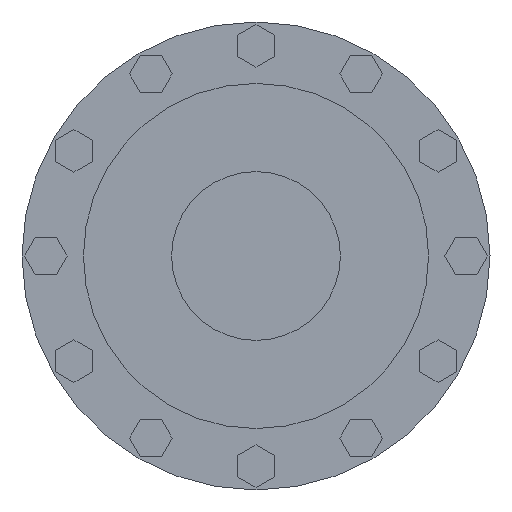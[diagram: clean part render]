
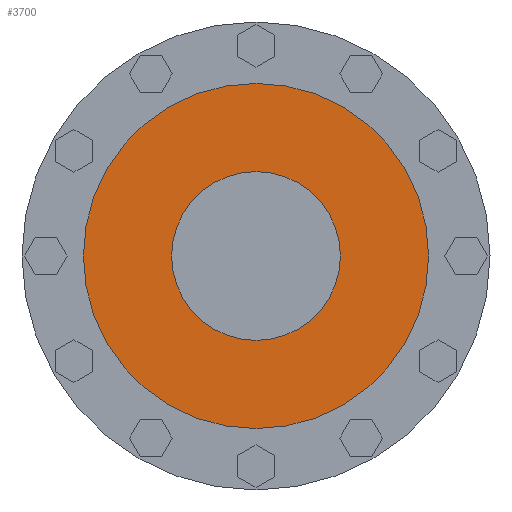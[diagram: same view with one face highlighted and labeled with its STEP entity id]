
A CAD part, left-side view. The second image highlights one B-rep face of the part: STEP entity #3700.
In plain terms, the highlighted planar face has unit normal (-1, 0, 0).
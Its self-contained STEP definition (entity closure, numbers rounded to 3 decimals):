
#6=CARTESIAN_POINT('',(-430.,0.,0.));
#7=DIRECTION('',(1.,0.,0.));
#8=DIRECTION('',(0.,1.,0.));
#9=AXIS2_PLACEMENT_3D('',#6,#7,#8);
#773=CARTESIAN_POINT('',(-430.,0.,0.));
#774=DIRECTION('',(-1.,0.,0.));
#775=DIRECTION('',(0.,1.,0.));
#776=AXIS2_PLACEMENT_3D('',#773,#774,#775);
#778=CARTESIAN_POINT('',(-430.,0.,0.));
#779=DIRECTION('',(1.,0.,0.));
#780=DIRECTION('',(0.,1.,0.));
#781=AXIS2_PLACEMENT_3D('',#778,#779,#780);
#792=CARTESIAN_POINT('',(-430.,0.,0.));
#793=DIRECTION('',(-1.,0.,0.));
#794=DIRECTION('',(0.,1.,0.));
#795=AXIS2_PLACEMENT_3D('',#792,#793,#794);
#2294=CARTESIAN_POINT('',(-430.,112.5,0.));
#2296=VERTEX_POINT('',#2294);
#2302=CARTESIAN_POINT('',(-430.,-112.5,0.));
#2304=VERTEX_POINT('',#2302);
#2325=CARTESIAN_POINT('',(-430.,55.,0.));
#2326=VERTEX_POINT('',#2325);
#2327=CARTESIAN_POINT('',(-430.,-55.,0.));
#2328=VERTEX_POINT('',#2327);
#3686=CARTESIAN_POINT('',(-430.,0.,0.));
#3687=DIRECTION('',(1.,0.,0.));
#3688=DIRECTION('',(0.,-1.,0.));
#3689=AXIS2_PLACEMENT_3D('',#3686,#3687,#3688);
#3690=PLANE('',#3689);
#3691=ORIENTED_EDGE('',*,*,#3679,.F.);
#3692=ORIENTED_EDGE('',*,*,#3668,.T.);
#3693=EDGE_LOOP('',(#3691,#3692));
#3694=FACE_OUTER_BOUND('',#3693,.F.);
#3695=ORIENTED_EDGE('',*,*,#3034,.F.);
#3697=ORIENTED_EDGE('',*,*,#3696,.T.);
#3698=EDGE_LOOP('',(#3695,#3697));
#3699=FACE_BOUND('',#3698,.F.);
#3700=ADVANCED_FACE('',(#3694,#3699),#3690,.F.);
#10=CIRCLE('',#9,55.);
#777=CIRCLE('',#776,112.5);
#782=CIRCLE('',#781,112.5);
#796=CIRCLE('',#795,55.);
#3034=EDGE_CURVE('',#2326,#2328,#10,.T.);
#3668=EDGE_CURVE('',#2296,#2304,#782,.T.);
#3679=EDGE_CURVE('',#2296,#2304,#777,.T.);
#3696=EDGE_CURVE('',#2326,#2328,#796,.T.);
